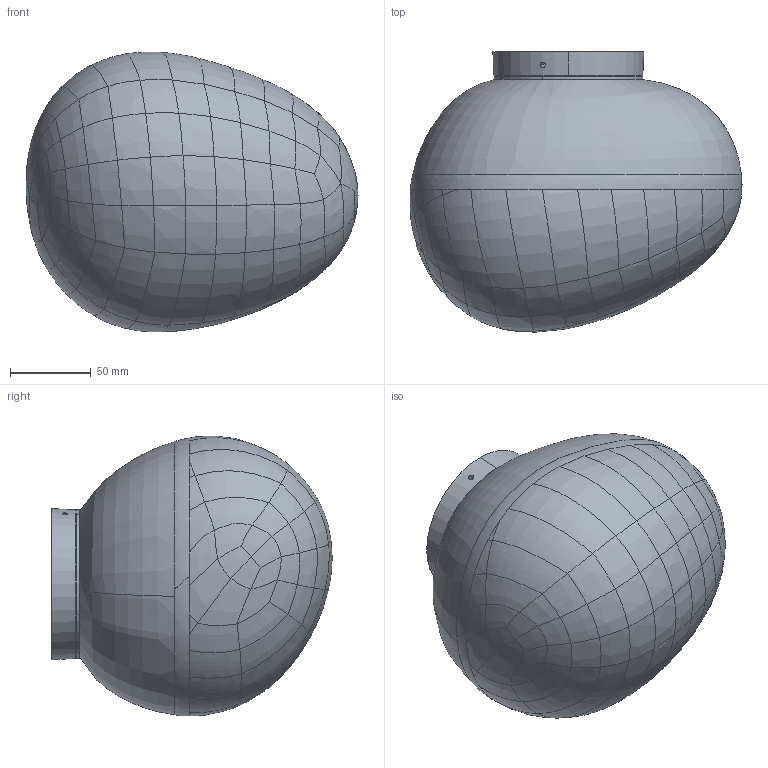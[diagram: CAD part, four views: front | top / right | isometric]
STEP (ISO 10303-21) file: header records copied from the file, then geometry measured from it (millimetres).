
FILE_DESCRIPTION (( 'STEP AP203' ), '1' );
FILE_NAME ('168_MIDI_W-C_LD_3D.STEP', '2021-03-31T09:57:32', ( '' ), ( '' ), 'SwSTEP 2.0', 'SolidWorks 2021', '' );
FILE_SCHEMA (( 'CONFIG_CONTROL_DESIGN' ));
Length unit declared in the file: millimetre
Products named in the file (1): 168_MIDI_W-C_LD_3D
Bounding box: 205.53 x 173.55 x 173.34 mm (x, y, z)
Volume: 347628.3 mm3; surface area: 237134.8 mm2
Topology: 4 solids, 4 shells, 827 faces, 2038 edges, 1205 vertices
Faces by surface type: bspline 386, cylinder 216, plane 114, cone 46, torus 43, sphere 22
Entity records: 244568 total; most frequent: CARTESIAN_POINT 228280, ORIENTED_EDGE 3984, DIRECTION 2504, EDGE_CURVE 1992, VERTEX_POINT 1193, AXIS2_PLACEMENT_3D 1034, EDGE_LOOP 869, ADVANCED_FACE 827
